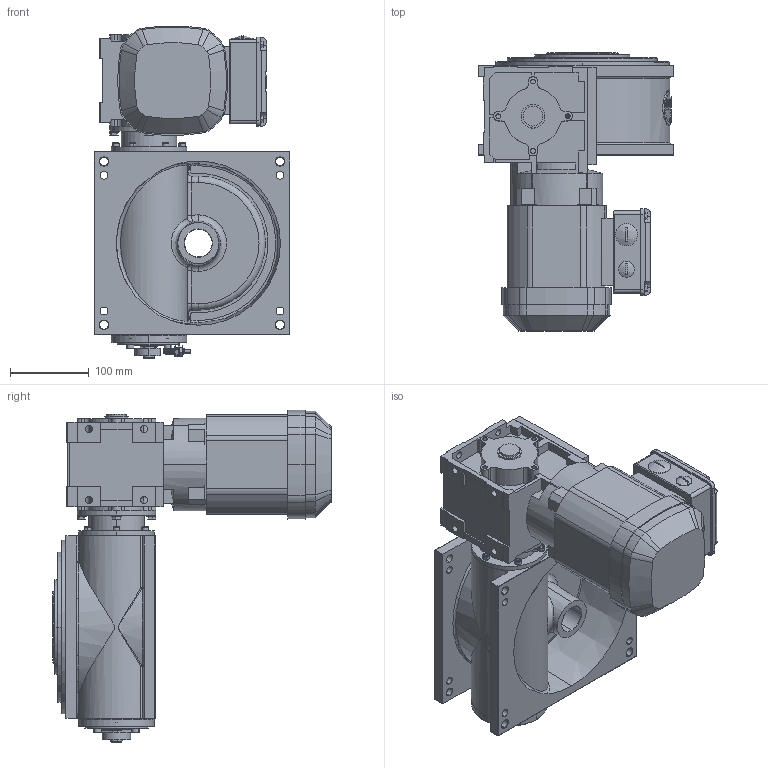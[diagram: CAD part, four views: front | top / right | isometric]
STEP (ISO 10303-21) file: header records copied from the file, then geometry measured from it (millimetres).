
FILE_DESCRIPTION (( 'STEP AP214' ), '1' );
FILE_NAME ('M190_SEW_WA30DRS71S4_D2.STEP', '2021-01-25T15:13:10', ( '' ), ( '' ), 'SwSTEP 2.0', 'SolidWorks 2020', '' );
FILE_SCHEMA (( 'AUTOMOTIVE_DESIGN' ));
Length unit declared in the file: millimetre
Products named in the file (1): M190_SEW_WA30DRS71S4_D2
Bounding box: 248 x 352.6 x 420.69 mm (x, y, z)
Surface area: 627344.2 mm2 (no closed solid volume)
Topology: 0 solids, 53 shells, 1239 faces, 3772 edges, 2484 vertices
Faces by surface type: plane 506, cylinder 413, cone 151, bspline 94, torus 63, sphere 12
Entity records: 64977 total; most frequent: CARTESIAN_POINT 18326, DIRECTION 6883, ORIENTED_EDGE 6504, EDGE_CURVE 3735, VERTEX_POINT 2484, AXIS2_PLACEMENT_3D 2460, VECTOR 1963, LINE 1963
